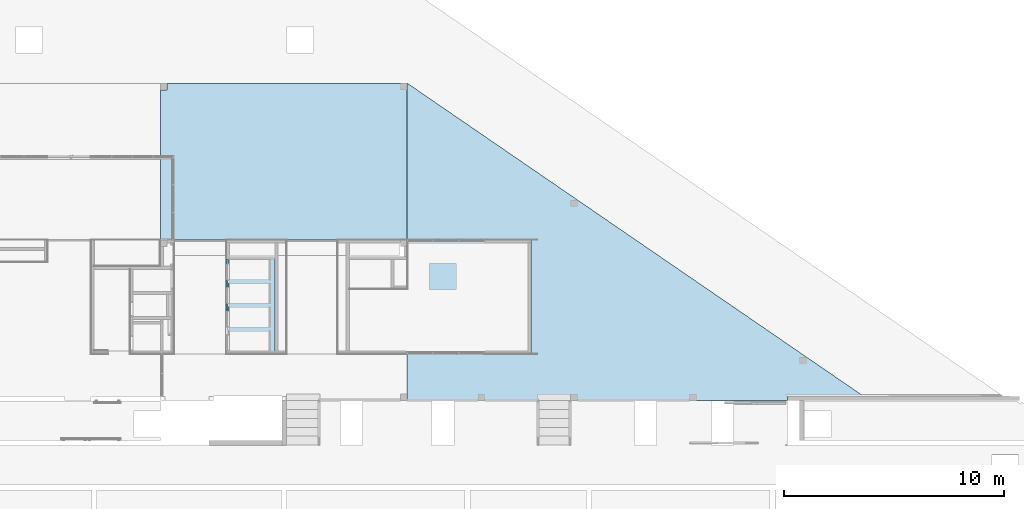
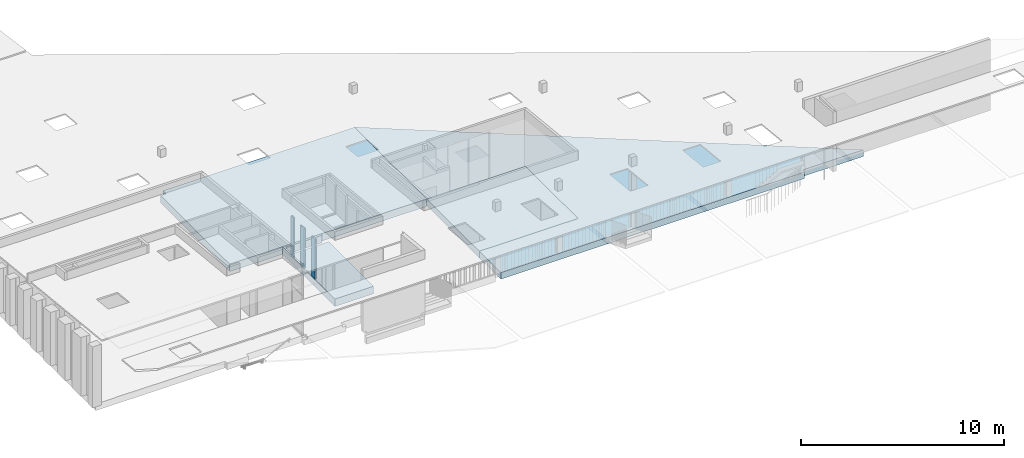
# One storey, part 24 of 43: 4 slabs, 3 plates, 1 element without a shape of its own.
"""IFC2X3 building model written with IfcOpenShell, lengths in millimetres."""

from ifc_helpers import new_model, entity, si_unit, converted_unit, derived_unit, money_unit, direction, frame, origin_with_axes, place, context, subcontext, project, spatial, faceted_brep, material, material_list, type_object, element, aggregate, save


model = new_model("IFC2X3")

# Units and contexts
model_context = context("Model", 3, precision=0.01, world=origin_with_axes(), true_north=direction((0.0, 1.0)))
body_context = subcontext(model_context, "Body", "Model", "MODEL_VIEW")
ifc_project = project(units=[si_unit("LENGTHUNIT", "METRE", prefix="MILLI"), si_unit("AREAUNIT", "SQUARE_METRE"), si_unit("VOLUMEUNIT", "CUBIC_METRE"), converted_unit("PLANEANGLEUNIT", "DEGREE", entity("IfcPlaneAngleMeasure", 0.0174532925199), si_unit("PLANEANGLEUNIT", "RADIAN"), dimensions=[0, 0, 0, 0, 0, 0, 0]), si_unit("SOLIDANGLEUNIT", "STERADIAN"), money_unit("EUR"), converted_unit("TIMEUNIT", "Year", entity("IfcTimeMeasure", 31556926.0), si_unit("TIMEUNIT", "SECOND"), dimensions=[0, 0, 1, 0, 0, 0, 0]), si_unit("MASSUNIT", "GRAM", prefix="KILO"), si_unit("THERMODYNAMICTEMPERATUREUNIT", "DEGREE_CELSIUS"), si_unit("LUMINOUSINTENSITYUNIT", "LUMEN"), si_unit("ENERGYUNIT", "JOULE", prefix="MEGA"), derived_unit("THERMALCONDUCTANCEUNIT", [(si_unit("POWERUNIT", "WATT"), 1), (si_unit("LENGTHUNIT", "METRE"), -1), (si_unit("THERMODYNAMICTEMPERATUREUNIT", "KELVIN"), -1)]), derived_unit("SPECIFICHEATCAPACITYUNIT", [(si_unit("ENERGYUNIT", "JOULE"), 1), (si_unit("MASSUNIT", "GRAM", prefix="KILO"), -1), (si_unit("THERMODYNAMICTEMPERATUREUNIT", "KELVIN"), -1)]), derived_unit("MASSDENSITYUNIT", [(si_unit("MASSUNIT", "GRAM", prefix="KILO"), 1), (si_unit("VOLUMEUNIT", "CUBIC_METRE"), -1)])], contexts=[model_context])

# Site, building, storey
site_placement = place(None, origin_with_axes())
site = spatial("IfcSite", under=ifc_project, at=site_placement, Name="L.Koidula tn 11b", CompositionType="ELEMENT")
building_placement = place(site_placement, origin_with_axes())
building = spatial("IfcBuilding", under=site, at=building_placement, Name="Rakvere Riigigümnaasium", CompositionType="ELEMENT")
storey_placement = place(building_placement, frame((0.0, 0.0, 6665.0), z_axis=(0.0, 0.0, 1.0), x_axis=(1.0, 0.0, 0.0)))
storey = spatial("IfcBuildingStorey", under=building, at=storey_placement, Name="3.korrus +6,66", CompositionType="ELEMENT", Elevation=6665.0)

# Curtain wall, plates
curtain_wall_type = type_object("IfcCurtainWallType", Name="Curtain Wall Type", PredefinedType="NOTDEFINED")
curtain_wall_placement = place(storey_placement, frame((49969.604162, 20812.4526887, -4.66409044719e-06), z_axis=(0.0, 0.0, 1.0), x_axis=(1.0, 0.0, 0.0)))
curtain_wall = element("IfcCurtainWall", 1, at=curtain_wall_placement, inside=storey, type_object=curtain_wall_type, Name="SUS-03")
ifc_material_1 = material(Name="Klaasvill")
ifc_material_2 = material(Name="MDF")
ifc_material_3 = material(Name="Kipsplaat")
ifc_material_list_1 = material_list([ifc_material_1, ifc_material_2, ifc_material_3])
plate_type = type_object("IfcPlateType", Name="SA-Siseuksesüsteem-Paneel 3 x 2400 x 0", PredefinedType="CURTAIN_PANEL")
plate_1_placement = place(curtain_wall_placement, frame((0.0, 1605.0, 1200.00000697), z_axis=(0.0, 0.0, 1.0), x_axis=(0.0, -1.0, 0.0)))
plate_1 = element("IfcPlate", 2, at=plate_1_placement, type_object=plate_type, material=ifc_material_list_1, Name="Panel-SA-Siseuks-010", ObjectType="CURTAIN_PANEL", context=body_context, shape_type="Brep", body=[
    faceted_brep([(-17.9967546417, 45.0, 1199.99999769), (-29.9967546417, 45.0, 1199.99999769), (-29.9967546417, 45.3958317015, 1199.99999769), (-32.9967546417, 45.3958317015, 1199.99999769), (-152.996754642, 45.3958317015, 1199.99999769), (-155.996754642, 45.3958317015, 1199.99999769), (-155.996754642, 45.0, 1199.99999769), (-167.996754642, 45.0, 1199.99999769), (-167.996754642, 79.0, 1199.99999769), (-168.047674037, 79.0, 1200.00000697), (-168.047674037, 42.0, 1200.00000697), (168.047671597, 42.0, 1200.00000697), (168.047671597, 79.0, 1200.00000697), (-17.9967546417, 79.0, 1199.99999769), (-17.9967546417, 45.3958317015, 1199.99999769), (-17.9967546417, 45.0, -1200.00000231), (-29.9967546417, 45.0, -1200.00000231), (-29.9967546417, 45.3958317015, -1200.00000231), (-32.9967546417, 45.3958317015, -1200.00000231), (-152.996754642, 45.3958317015, -1200.00000231), (-155.996754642, 45.3958317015, -1200.00000231), (-155.996754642, 45.0, -1200.00000231), (-167.996754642, 45.0, -1200.00000231), (-167.996754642, 79.0, -1200.00000231), (-168.047674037, 79.0, -1200.00000697), (-168.047674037, 42.0, -1200.00000697), (168.047671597, 42.0, -1200.00000697), (168.047671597, 79.0, -1200.00000697), (-17.9967546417, 79.0, -1200.00000231), (-17.9967546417, 45.3958317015, -1200.00000231)], [[[0, 1, 2, 3, 4, 5, 6, 7, 8, 9, 10, 11, 12, 13, 14]], [[1, 0, 15, 16]], [[17, 2, 1, 16]], [[2, 17, 18, 3]], [[18, 19, 4, 3]], [[19, 20, 5, 4]], [[21, 6, 5, 20]], [[22, 7, 6, 21]], [[8, 7, 22, 23]], [[24, 9, 8, 23]], [[10, 9, 24, 25]], [[25, 26, 11, 10]], [[26, 27, 12, 11]], [[12, 27, 28, 13]], [[0, 14, 13, 28, 29, 15]], [[15, 29, 28, 27, 26, 25, 24, 23, 22, 21, 20, 19, 18, 17, 16]]]),
    faceted_brep([(168.047671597, 92.0, -1200.00000697), (-17.9967546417, 92.0, -1200.00000231), (-17.9967546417, 92.0, 1199.99999769), (168.047671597, 92.0, 1200.00000697), (168.047671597, 84.0, -1200.00000697), (-17.9967546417, 84.0, -1200.00000231), (-17.9967546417, 84.0, 1199.99999769), (168.047671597, 84.0, 1200.00000697)], [[[0, 1, 2, 3]], [[4, 5, 1, 0]], [[5, 6, 2, 1]], [[3, 2, 6, 7]], [[0, 3, 7, 4]], [[7, 6, 5, 4]]]),
    faceted_brep([(-168.047674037, 84.0, 1200.00000697), (-167.996754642, 84.0, 1199.99999769), (-167.996754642, 92.0, 1199.99999769), (-168.047674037, 92.0, 1200.00000697), (-168.047674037, 84.0, -1200.00000697), (-167.996754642, 84.0, -1200.00000231), (-167.996754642, 92.0, -1200.00000231), (-168.047674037, 92.0, -1200.00000697)], [[[0, 1, 2, 3]], [[4, 5, 1, 0]], [[5, 6, 2, 1]], [[3, 2, 6, 7]], [[3, 7, 4, 0]], [[7, 6, 5, 4]]]),
    faceted_brep([(-168.047674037, 0.0, 1200.00000697), (168.047671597, 0.0, 1200.00000697), (168.047671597, 10.0, 1200.00000697), (-168.047674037, 10.0, 1200.00000697), (-168.047674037, 0.0, -1200.00000697), (168.047671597, 0.0, -1200.00000697), (168.047671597, 10.0, -1200.00000697), (-168.047674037, 10.0, -1200.00000697)], [[[0, 1, 2, 3]], [[0, 4, 5, 1]], [[1, 5, 6, 2]], [[3, 2, 6, 7]], [[4, 0, 3, 7]], [[5, 4, 7, 6]]]),
    faceted_brep([(-168.047674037, 12.0, 1200.00000697), (168.047671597, 12.0, 1200.00000697), (168.047671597, 25.0, 1200.00000697), (-168.047674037, 25.0, 1200.00000697), (-168.047674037, 12.0, -1200.00000697), (168.047671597, 12.0, -1200.00000697), (168.047671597, 25.0, -1200.00000697), (-168.047674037, 25.0, -1200.00000697)], [[[0, 1, 2, 3]], [[0, 4, 5, 1]], [[1, 5, 6, 2]], [[3, 2, 6, 7]], [[4, 0, 3, 7]], [[5, 4, 7, 6]]]),
    faceted_brep([(-168.047674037, 25.0, 1200.00000697), (168.047671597, 25.0, 1200.00000697), (168.047671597, 38.0, 1200.00000697), (-168.047674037, 38.0, 1200.00000697), (-168.047674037, 25.0, -1200.00000697), (168.047671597, 25.0, -1200.00000697), (168.047671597, 38.0, -1200.00000697), (-168.047674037, 38.0, -1200.00000697)], [[[0, 1, 2, 3]], [[0, 4, 5, 1]], [[1, 5, 6, 2]], [[3, 2, 6, 7]], [[4, 0, 3, 7]], [[5, 4, 7, 6]]]),
])
plate_2_placement = place(curtain_wall_placement, frame((0.0, 535.0, 1200.00000697), z_axis=(0.0, 0.0, 1.0), x_axis=(0.0, -1.0, 0.0)))
plate_2 = element("IfcPlate", 3, at=plate_2_placement, type_object=plate_type, material=ifc_material_list_1, Name="Panel-SA-Siseuks-011", ObjectType="CURTAIN_PANEL", context=body_context, shape_type="Brep", body=[
    faceted_brep([(-17.9935092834, 45.0, 1199.99999769), (-29.9935092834, 45.0, 1199.99999769), (-29.9935092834, 45.3958317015, 1199.99999769), (-32.9935092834, 45.3958317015, 1199.99999769), (-152.993509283, 45.3958317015, 1199.99999769), (-155.993509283, 45.3958317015, 1199.99999769), (-155.993509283, 45.0, 1200.00000697), (-167.993509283, 45.0, 1200.00000697), (-167.993509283, 79.0, 1200.00000697), (-168.047674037, 79.0, 1200.00000697), (-168.047674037, 42.0, 1200.00000697), (168.047671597, 42.0, 1200.00000697), (168.047671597, 79.0, 1200.00000697), (-17.9935092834, 79.0, 1199.99999769), (-17.9935092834, 45.3958317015, 1199.99999769), (-17.9935092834, 45.0, -1200.00000231), (-29.9935092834, 45.0, -1200.00000231), (-29.9935092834, 45.3958317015, -1200.00000231), (-32.9935092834, 45.3958317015, -1200.00000231), (-152.993509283, 45.3958317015, -1200.00000231), (-155.993509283, 45.3958317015, -1200.00000231), (-155.993509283, 45.0, -1200.00000231), (-167.993509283, 45.0, -1200.00000231), (-167.993509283, 79.0, -1200.00000231), (-168.047674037, 79.0, -1200.00000697), (-168.047674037, 42.0, -1200.00000697), (168.047671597, 42.0, -1200.00000697), (168.047671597, 79.0, -1200.00000697), (-17.9935092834, 79.0, -1200.00000231), (-17.9935092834, 45.3958317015, -1200.00000231)], [[[0, 1, 2, 3, 4, 5, 6, 7, 8, 9, 10, 11, 12, 13, 14]], [[1, 0, 15, 16]], [[17, 2, 1, 16]], [[2, 17, 18, 3]], [[19, 4, 3, 18]], [[19, 20, 5, 4]], [[6, 5, 20, 21]], [[21, 22, 7, 6]], [[7, 22, 23, 8]], [[24, 9, 8, 23]], [[10, 9, 24, 25]], [[25, 26, 11, 10]], [[26, 27, 12, 11]], [[27, 28, 13, 12]], [[0, 14, 13, 28, 29, 15]], [[15, 29, 28, 27, 26, 25, 24, 23, 22, 21, 20, 19, 18, 17, 16]]]),
    faceted_brep([(168.047671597, 92.0, -1200.00000697), (-17.9935092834, 92.0, -1200.00000231), (-17.9935092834, 92.0, 1199.99999769), (168.047671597, 92.0, 1200.00000697), (168.047671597, 84.0, -1200.00000697), (-17.9935092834, 84.0, -1200.00000231), (-17.9935092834, 84.0, 1199.99999769), (168.047671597, 84.0, 1200.00000697)], [[[0, 1, 2, 3]], [[4, 5, 1, 0]], [[5, 6, 2, 1]], [[3, 2, 6, 7]], [[4, 0, 3, 7]], [[7, 6, 5, 4]]]),
    faceted_brep([(-168.047674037, 84.0, 1200.00000697), (-167.993509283, 84.0, 1200.00000697), (-167.993509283, 92.0, 1200.00000697), (-168.047674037, 92.0, 1200.00000697), (-168.047674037, 84.0, -1200.00000697), (-167.993509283, 84.0, -1200.00000231), (-167.993509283, 92.0, -1200.00000231), (-168.047674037, 92.0, -1200.00000697)], [[[0, 1, 2, 3]], [[4, 5, 1, 0]], [[5, 6, 2, 1]], [[3, 2, 6, 7]], [[3, 7, 4, 0]], [[7, 6, 5, 4]]]),
    faceted_brep([(-168.047674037, 0.0, 1200.00000697), (168.047671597, 0.0, 1200.00000697), (168.047671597, 10.0, 1200.00000697), (-168.047674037, 10.0, 1200.00000697), (-168.047674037, 0.0, -1200.00000697), (168.047671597, 0.0, -1200.00000697), (168.047671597, 10.0, -1200.00000697), (-168.047674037, 10.0, -1200.00000697)], [[[0, 1, 2, 3]], [[0, 4, 5, 1]], [[1, 5, 6, 2]], [[3, 2, 6, 7]], [[4, 0, 3, 7]], [[5, 4, 7, 6]]]),
    faceted_brep([(-168.047674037, 12.0, 1200.00000697), (168.047671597, 12.0, 1200.00000697), (168.047671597, 25.0, 1200.00000697), (-168.047674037, 25.0, 1200.00000697), (-168.047674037, 12.0, -1200.00000697), (168.047671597, 12.0, -1200.00000697), (168.047671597, 25.0, -1200.00000697), (-168.047674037, 25.0, -1200.00000697)], [[[0, 1, 2, 3]], [[0, 4, 5, 1]], [[1, 5, 6, 2]], [[3, 2, 6, 7]], [[4, 0, 3, 7]], [[5, 4, 7, 6]]]),
    faceted_brep([(-168.047674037, 25.0, 1200.00000697), (168.047671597, 25.0, 1200.00000697), (168.047671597, 38.0, 1200.00000697), (-168.047674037, 38.0, 1200.00000697), (-168.047674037, 25.0, -1200.00000697), (168.047671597, 25.0, -1200.00000697), (168.047671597, 38.0, -1200.00000697), (-168.047674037, 38.0, -1200.00000697)], [[[0, 1, 2, 3]], [[0, 4, 5, 1]], [[1, 5, 6, 2]], [[3, 2, 6, 7]], [[4, 0, 3, 7]], [[5, 4, 7, 6]]]),
])
ifc_material_list_2 = material_list([ifc_material_2, ifc_material_3, ifc_material_1])
plate_3_placement = place(curtain_wall_placement, frame((0.0, 2579.0, 1200.00000697), z_axis=(0.0, 0.0, 1.0), x_axis=(0.0, -1.0, 0.0)))
plate_3 = element("IfcPlate", 4, at=plate_3_placement, type_object=plate_type, material=ifc_material_list_2, Name="Panel-SA-Siseuks-009", ObjectType="CURTAIN_PANEL", context=body_context, shape_type="Brep", body=[
    faceted_brep([(-114.000001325, 0.0, 1200.00000697), (72.0476715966, 0.0, 1200.00000697), (72.0476715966, 10.0, 1200.00000697), (-114.000001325, 10.0, 1200.00000697), (-114.000001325, 0.0, -1200.00000697), (72.0476715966, 0.0, -1200.00000697), (72.0476715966, 10.0, -1200.00000697), (-114.000001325, 10.0, -1200.00000697)], [[[0, 1, 2, 3]], [[0, 4, 5, 1]], [[1, 5, 6, 2]], [[3, 2, 6, 7]], [[4, 0, 3, 7]], [[5, 4, 7, 6]]]),
    faceted_brep([(-114.000001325, 12.0, 1200.00000697), (72.0476715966, 12.0, 1200.00000697), (72.0476715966, 25.0, 1200.00000697), (-114.000001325, 25.0, 1200.00000697), (-114.000001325, 12.0, -1200.00000697), (72.0476715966, 12.0, -1200.00000697), (72.0476715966, 25.0, -1200.00000697), (-114.000001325, 25.0, -1200.00000697)], [[[0, 1, 2, 3]], [[0, 4, 5, 1]], [[1, 5, 6, 2]], [[3, 2, 6, 7]], [[4, 0, 3, 7]], [[5, 4, 7, 6]]]),
    faceted_brep([(-114.000001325, 25.0, 1200.00000697), (72.0476715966, 25.0, 1200.00000697), (72.0476715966, 38.0, 1200.00000697), (-114.000001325, 38.0, 1200.00000697), (-114.000001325, 25.0, -1200.00000697), (72.0476715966, 25.0, -1200.00000697), (72.0476715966, 38.0, -1200.00000697), (-114.000001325, 38.0, -1200.00000697)], [[[0, 1, 2, 3]], [[0, 4, 5, 1]], [[1, 5, 6, 2]], [[3, 2, 6, 7]], [[4, 0, 3, 7]], [[5, 4, 7, 6]]]),
    faceted_brep([(-114.000001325, 42.0, 1200.00000697), (72.0476715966, 42.0, 1200.00000697), (72.0476715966, 79.0, 1200.00000697), (-114.000001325, 79.0, 1200.00000697), (-114.000001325, 42.0, -1200.00000697), (72.0476715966, 42.0, -1200.00000697), (72.0476715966, 79.0, -1200.00000697), (-114.000001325, 79.0, -1200.00000697)], [[[0, 1, 2, 3]], [[0, 4, 5, 1]], [[1, 5, 6, 2]], [[3, 2, 6, 7]], [[4, 0, 3, 7]], [[5, 4, 7, 6]]]),
    faceted_brep([(-114.000001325, 84.0, 1200.00000697), (72.0476715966, 84.0, 1200.00000697), (72.0476715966, 92.0, 1200.00000697), (-114.000001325, 92.0, 1200.00000697), (-114.000001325, 84.0, -1200.00000697), (72.0476715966, 84.0, -1200.00000697), (72.0476715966, 92.0, -1200.00000697), (-114.000001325, 92.0, -1200.00000697)], [[[0, 1, 2, 3]], [[0, 4, 5, 1]], [[1, 5, 6, 2]], [[3, 2, 6, 7]], [[4, 0, 3, 7]], [[5, 4, 7, 6]]]),
])
aggregate(curtain_wall, [plate_1, plate_2, plate_3])

# Slabs
ifc_material_4 = material(Name="vaip")
ifc_material_5 = material(Name="Betoon - pealevalu")
ifc_material_6 = material(Name="Betoon")
ifc_material_7 = material(Name="Mürasummutus vill")
ifc_material_8 = material(Name="Betoon õõnespaneel")
ifc_material_list_3 = material_list([ifc_material_4, ifc_material_5, ifc_material_6, ifc_material_7, ifc_material_8])
slab_type_1 = type_object("IfcSlabType", Name="VL-02-2 450", PredefinedType="NOTDEFINED")
slab_1_placement = place(storey_placement, frame((58180.0348101, 24400.4555472, 0.0), z_axis=(0.0, 0.0, 1.0), x_axis=(1.0, 0.0, 0.0)))
element("IfcSlab", 5, at=slab_1_placement, inside=storey, type_object=slab_type_1, material=ifc_material_list_3, Name="Vahelagi", PredefinedType="NOTDEFINED", context=body_context, shape_type="Brep", body=[
    faceted_brep([(-10880.0347471, 7099.99994729, -5.0), (-10880.0347471, 7099.99994729, 0.0), (-380.034823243, 7099.95938661, 0.0), (-380.034823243, 7099.95938661, -5.0), (-10880.0347471, 6799.99994729, 0.0), (-10880.0347471, 6799.99994729, -5.0), (-11180.0347471, 6799.99994729, 0.0), (-11180.0348163, 0.0, 0.0), (0.0, 0.0, 0.0), (0.0, 7099.99997204, 0.0), (0.0, 7099.99997204, -5.0), (0.0, 0.0, -5.0), (-11180.0348163, 0.0, -5.0), (-11180.0347471, 6799.99994729, -5.0)], [[[0, 1, 2, 3]], [[4, 1, 0, 5]], [[4, 6, 7, 8, 9, 2, 1]], [[9, 3, 2]], [[5, 0, 3, 10, 11, 12, 13]], [[6, 4, 5, 13]], [[6, 13, 12, 7]], [[8, 7, 12, 11]], [[9, 8, 11, 10]], [[3, 9, 10]]]),
    faceted_brep([(-10880.0347471, 7099.99994729, -10.0), (-10880.0347471, 7099.99994729, -5.0), (-380.034823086, 7099.99997085, -5.0), (-380.034823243, 7099.95938661, -10.0), (-10880.0347471, 6799.99994729, -5.0), (-10880.0347471, 6799.99994729, -10.0), (-11180.0347471, 6799.99994729, -5.0), (-11180.0348163, 0.0, -5.0), (0.0, 0.0, -5.0), (0.0, 7099.99997204, -5.0), (0.0, 7099.99997204, -10.0), (0.0, 0.0, -10.0), (-11180.0348163, 0.0, -10.0), (-11180.0347471, 6799.99994729, -10.0)], [[[0, 1, 2, 3]], [[4, 1, 0, 5]], [[4, 6, 7, 8, 9, 2, 1]], [[2, 9, 10, 3]], [[5, 0, 3, 10, 11, 12, 13]], [[6, 4, 5, 13]], [[6, 13, 12, 7]], [[8, 7, 12, 11]], [[9, 8, 11, 10]]]),
    faceted_brep([(-10880.0347471, 7099.99994729, -100.0), (-10880.0347471, 7099.99994729, -10.0), (-380.034823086, 7099.99997085, -10.0), (-380.034823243, 7099.95938661, -100.0), (-10880.0347471, 6799.99994729, -10.0), (-10880.0347471, 6799.99994729, -100.0), (-11180.0347471, 6799.99994729, -10.0), (-11180.0348163, 0.0, -10.0), (0.0, 0.0, -10.0), (0.0, 7099.99997204, -10.0), (7.17945596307e-05, 7099.99994729, -46.0929271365), (-299.999928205, 7099.99994729, -46.0929271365), (-299.999928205, 7099.99994729, -100.0), (-299.999928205, 6799.99994729, -100.0), (7.17945596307e-05, 6799.99994729, -100.0), (0.0, 0.0, -100.0), (-11180.0348163, 0.0, -100.0), (-11180.0347471, 6799.99994729, -100.0), (7.17945596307e-05, 6799.99994729, -46.0929271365), (-299.999928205, 6799.99994729, -46.0929271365)], [[[0, 1, 2, 3]], [[4, 1, 0, 5]], [[4, 6, 7, 8, 9, 2, 1]], [[10, 11, 12, 3, 2, 9]], [[5, 0, 3, 12, 13, 14, 15, 16, 17]], [[6, 4, 5, 17]], [[6, 17, 16, 7]], [[15, 8, 7, 16]], [[15, 14, 18, 10, 9, 8]], [[19, 11, 10, 18]], [[13, 12, 11, 19]], [[19, 18, 14, 13]]]),
    faceted_brep([(-10880.0347471, 7099.99994729, -130.0), (-10880.0347471, 7099.99994729, -100.0), (-380.034823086, 7099.99997085, -100.0), (-380.034823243, 7099.95938661, -130.0), (-10880.0347471, 6799.99994729, -100.0), (-10880.0347471, 6799.99994729, -130.0), (-11180.0347471, 6799.99994729, -100.0), (-11180.0348163, 0.0, -100.0), (0.0, 0.0, -100.0), (7.17945596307e-05, 6799.99994729, -100.0), (-299.999928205, 6799.99994729, -100.0), (-299.999928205, 7099.99994729, -100.0), (-299.999928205, 7099.99994729, -130.0), (-299.999928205, 6799.99994729, -130.0), (7.17945596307e-05, 6799.99994729, -130.0), (0.0, 0.0, -130.0), (-11180.0348163, 0.0, -130.0), (-11180.0347471, 6799.99994729, -130.0)], [[[0, 1, 2, 3]], [[4, 1, 0, 5]], [[4, 6, 7, 8, 9, 10, 11, 2, 1]], [[2, 11, 12, 3]], [[5, 0, 3, 12, 13, 14, 15, 16, 17]], [[6, 4, 5, 17]], [[6, 17, 16, 7]], [[15, 8, 7, 16]], [[15, 14, 9, 8]], [[13, 10, 9, 14]], [[13, 12, 11, 10]]]),
    faceted_brep([(-10880.0347471, 7099.99994729, -450.0), (-10880.0347471, 7099.99994729, -130.0), (-380.034823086, 7099.99997085, -130.0), (-380.034823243, 7099.95938661, -450.0), (-10880.0347471, 6799.99994729, -130.0), (-10880.0347471, 6799.99994729, -450.0), (-11180.0347471, 6799.99994729, -130.0), (-11180.0348163, 0.0, -130.0), (0.0, 0.0, -130.0), (7.17945596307e-05, 6799.99994729, -130.0), (-299.999928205, 6799.99994729, -130.0), (-299.999928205, 7099.99994729, -130.0), (-299.999928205, 7099.99994729, -450.0), (-299.999928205, 6799.99994729, -450.0), (7.17945596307e-05, 6799.99994729, -450.0), (0.0, 0.0, -450.0), (-11180.0348163, 0.0, -450.0), (-11180.0347471, 6799.99994729, -450.0)], [[[0, 1, 2, 3]], [[4, 1, 0, 5]], [[4, 6, 7, 8, 9, 10, 11, 2, 1]], [[2, 11, 12, 3]], [[5, 0, 3, 12, 13, 14, 15, 16, 17]], [[6, 4, 5, 17]], [[6, 17, 16, 7]], [[7, 16, 15, 8]], [[15, 14, 9, 8]], [[13, 10, 9, 14]], [[13, 12, 11, 10]]]),
])
ifc_material_list_4 = material_list([ifc_material_4, ifc_material_6, ifc_material_7, ifc_material_8])
slab_type_2 = type_object("IfcSlabType", Name="VL-01-3 395", PredefinedType="NOTDEFINED")
slab_2_placement = place(storey_placement, frame((58180.0348101, 17110.4555095, 0.0), z_axis=(0.0, 0.0, 1.0), x_axis=(1.0, 0.0, 0.0)))
element("IfcSlab", 6, at=slab_2_placement, inside=storey, type_object=slab_type_2, material=ifc_material_list_4, Name="Vahelagi", PredefinedType="NOTDEFINED", context=body_context, shape_type="Brep", body=[
    faceted_brep([(3509.98612091, 11999.5703364, -5.0), (3509.98612091, 11999.5703364, 0.0), (20698.9817562, 210.025167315, 0.0), (20698.9817562, 210.025167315, -5.0), (3509.98612091, 11699.5953824, 0.0), (3509.98612091, 11699.5953824, -5.0), (3209.98612091, 11999.5953824, 0.0), (3509.94960416, 11999.5953824, 0.0), (24.7722909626, 14390.0000476, 0.0), (0.0, 14390.0000476, 0.0), (0.0, 7289.99990128, 0.0), (5609.96326927, 7289.99990128, 0.0), (5609.96326927, 2129.98428264, 0.0), (0.0, 2129.98428264, 0.0), (0.0, 0.0, 0.0), (17249.9472365, 0.0, 0.0), (17249.9472365, 199.999969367, 0.0), (20698.9817562, 199.999969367, 0.0), (3209.98612091, 11699.5953824, 0.0), (20698.9817562, 199.999969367, -5.0), (17249.9472365, 199.999969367, -5.0), (17249.9472365, 0.0, -5.0), (0.0, 0.0, -5.0), (0.0, 2129.98428264, -5.0), (5609.96326927, 2129.98428264, -5.0), (5609.96326927, 7289.99990128, -5.0), (0.0, 7289.99990128, -5.0), (0.0, 14390.0000476, -5.0), (24.7722909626, 14390.0000476, -5.0), (3509.94960416, 11999.5953824, -5.0), (3209.98612091, 11999.5953824, -5.0), (3209.98612091, 11699.5953824, -5.0)], [[[0, 1, 2, 3]], [[4, 1, 0, 5]], [[6, 7, 8, 9, 10, 11, 12, 13, 14, 15, 16, 17, 2, 1, 4, 18]], [[17, 19, 3, 2]], [[5, 0, 3, 19, 20, 21, 22, 23, 24, 25, 26, 27, 28, 29, 30, 31]], [[18, 4, 5, 31]], [[29, 7, 6, 30]], [[7, 29, 28, 8]], [[8, 28, 27, 9]], [[9, 27, 26, 10]], [[10, 26, 25, 11]], [[11, 25, 24, 12]], [[12, 24, 23, 13]], [[13, 23, 22, 14]], [[14, 22, 21, 15]], [[15, 21, 20, 16]], [[16, 20, 19, 17]], [[6, 18, 31, 30]]]),
    faceted_brep([(3509.98612091, 11999.5703364, -100.0), (3509.98612091, 11999.5703364, -5.0), (20698.9817562, 210.025167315, -5.0), (20698.9817562, 210.025167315, -100.0), (3509.98612091, 11699.5953824, -5.0), (3509.98612091, 11699.5953824, -100.0), (3209.98612091, 11999.5953824, -5.0), (3509.94960416, 11999.5953824, -5.0), (24.7722909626, 14390.0000476, -5.0), (0.0, 14390.0000476, -5.0), (0.0, 7289.99990128, -5.0), (5609.96326927, 7289.99990128, -5.0), (5609.96326927, 2129.98428264, -5.0), (0.0, 2129.98428264, -5.0), (0.0, 0.0, -5.0), (17249.9472365, 0.0, -5.0), (17249.9472365, 199.999969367, -5.0), (20698.9817562, 199.999969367, -5.0), (3209.98612091, 11699.5953824, -5.0), (20698.9817562, 199.999969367, -100.0), (17249.9472365, 199.999969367, -100.0), (17249.9472365, 0.0, -100.0), (0.0, 0.0, -100.0), (0.0, 2129.98428264, -100.0), (5609.96326927, 2129.98428264, -100.0), (5609.96326927, 7289.99990128, -100.0), (0.0, 7289.99990128, -100.0), (0.0, 14390.0000476, -100.0), (24.7722909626, 14390.0000476, -100.0), (3509.94960416, 11999.5953824, -100.0), (3209.98612091, 11999.5953824, -100.0), (3209.98612091, 11699.5953824, -100.0), (13119.9632628, 5408.29782723, -100.0), (12819.9632628, 5408.29782723, -100.0), (12819.9632628, 5108.29782723, -100.0), (13119.9632628, 5108.29782723, -100.0), (13119.9632628, 5408.29782723, -60.0), (12819.9632628, 5408.29782723, -60.0), (12819.9632628, 5108.29782723, -60.0), (13119.9632628, 5108.29782723, -60.0)], [[[0, 1, 2, 3]], [[4, 1, 0, 5]], [[6, 7, 8, 9, 10, 11, 12, 13, 14, 15, 16, 17, 2, 1, 4, 18]], [[17, 19, 3, 2]], [[5, 0, 3, 19, 20, 21, 22, 23, 24, 25, 26, 27, 28, 29, 30, 31], [32, 33, 34, 35]], [[18, 4, 5, 31]], [[29, 7, 6, 30]], [[7, 29, 28, 8]], [[8, 28, 27, 9]], [[9, 27, 26, 10]], [[10, 26, 25, 11]], [[11, 25, 24, 12]], [[12, 24, 23, 13]], [[13, 23, 22, 14]], [[14, 22, 21, 15]], [[15, 21, 20, 16]], [[16, 20, 19, 17]], [[6, 18, 31, 30]], [[33, 32, 36, 37]], [[34, 33, 37, 38]], [[35, 34, 38, 39]], [[32, 35, 39, 36]], [[38, 37, 36, 39]]]),
    faceted_brep([(3509.98612091, 11999.5703364, -130.0), (3509.98612091, 11999.5703364, -100.0), (20698.9817562, 210.025167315, -100.0), (20698.9817562, 210.025167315, -130.0), (3509.98612091, 11699.5953824, -100.0), (3509.98612091, 11699.5953824, -130.0), (3209.98612091, 11999.5953824, -100.0), (3509.94960416, 11999.5953824, -100.0), (24.7722909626, 14390.0000476, -100.0), (0.0, 14390.0000476, -100.0), (0.0, 7289.99990128, -100.0), (5609.96326927, 7289.99990128, -100.0), (5609.96326927, 2129.98428264, -100.0), (0.0, 2129.98428264, -100.0), (0.0, 0.0, -100.0), (17249.9472365, 0.0, -100.0), (17249.9472365, 199.999969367, -100.0), (20698.9817562, 199.999969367, -100.0), (3209.98612091, 11699.5953824, -100.0), (13119.9632628, 5408.29782723, -100.0), (13119.9632628, 5108.29782723, -100.0), (12819.9632628, 5108.29782723, -100.0), (12819.9632628, 5408.29782723, -100.0), (20698.9817562, 199.999969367, -130.0), (17249.9472365, 199.999969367, -130.0), (17249.9472365, 0.0, -130.0), (0.0, 0.0, -130.0), (0.0, 2129.98428264, -130.0), (5609.96326927, 2129.98428264, -130.0), (5609.96326927, 7289.99990128, -130.0), (0.0, 7289.99990128, -130.0), (0.0, 14390.0000476, -130.0), (24.7722909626, 14390.0000476, -130.0), (3509.94960416, 11999.5953824, -130.0), (3209.98612091, 11999.5953824, -130.0), (3209.98612091, 11699.5953824, -130.0), (13119.9632628, 5408.29782723, -130.0), (12819.9632628, 5408.29782723, -130.0), (12819.9632628, 5108.29782723, -130.0), (13119.9632628, 5108.29782723, -130.0)], [[[0, 1, 2, 3]], [[4, 1, 0, 5]], [[6, 7, 8, 9, 10, 11, 12, 13, 14, 15, 16, 17, 2, 1, 4, 18], [19, 20, 21, 22]], [[17, 23, 3, 2]], [[5, 0, 3, 23, 24, 25, 26, 27, 28, 29, 30, 31, 32, 33, 34, 35], [36, 37, 38, 39]], [[18, 4, 5, 35]], [[33, 7, 6, 34]], [[7, 33, 32, 8]], [[8, 32, 31, 9]], [[9, 31, 30, 10]], [[10, 30, 29, 11]], [[11, 29, 28, 12]], [[12, 28, 27, 13]], [[13, 27, 26, 14]], [[14, 26, 25, 15]], [[15, 25, 24, 16]], [[16, 24, 23, 17]], [[6, 18, 35, 34]], [[20, 19, 36, 39]], [[21, 20, 39, 38]], [[22, 21, 38, 37]], [[19, 22, 37, 36]]]),
    faceted_brep([(3509.98612091, 11999.5703364, -395.0), (3509.98612091, 11999.5703364, -130.0), (20698.9817562, 210.025167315, -130.0), (20698.9817562, 210.025167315, -395.0), (3509.98612091, 11699.5953824, -130.0), (3509.98612091, 11699.5953824, -395.0), (3209.98612091, 11999.5953824, -130.0), (3509.94960416, 11999.5953824, -130.0), (24.7722909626, 14390.0000476, -130.0), (0.0, 14390.0000476, -130.0), (0.0, 7289.99990128, -130.0), (5609.96326927, 7289.99990128, -130.0), (5609.96326927, 2129.98428264, -130.0), (0.0, 2129.98428264, -130.0), (0.0, 0.0, -130.0), (17249.9472365, 0.0, -130.0), (17249.9472365, 199.999969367, -130.0), (20698.9817562, 199.999969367, -130.0), (3209.98612091, 11699.5953824, -130.0), (13119.9632628, 5408.29782723, -130.0), (13119.9632628, 5108.29782723, -130.0), (12819.9632628, 5108.29782723, -130.0), (12819.9632628, 5408.29782723, -130.0), (20698.9817562, 199.999969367, -395.0), (17249.9472365, 199.999969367, -395.0), (17249.9472365, 0.0, -395.0), (0.0, 0.0, -395.0), (0.0, 2129.98428264, -395.0), (5609.96326927, 2129.98428264, -395.0), (5609.96326927, 7289.99990128, -395.0), (0.0, 7289.99990128, -395.0), (0.0, 14390.0000476, -395.0), (24.7722909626, 14390.0000476, -395.0), (3509.94960416, 11999.5953824, -395.0), (3209.98612091, 11999.5953824, -395.0), (3209.98612091, 11699.5953824, -395.0), (13119.9632628, 5408.29782723, -395.0), (12819.9632628, 5408.29782723, -395.0), (12819.9632628, 5108.29782723, -395.0), (13119.9632628, 5108.29782723, -395.0)], [[[0, 1, 2, 3]], [[4, 1, 0, 5]], [[6, 7, 8, 9, 10, 11, 12, 13, 14, 15, 16, 17, 2, 1, 4, 18], [19, 20, 21, 22]], [[17, 23, 3, 2]], [[5, 0, 3, 23, 24, 25, 26, 27, 28, 29, 30, 31, 32, 33, 34, 35], [36, 37, 38, 39]], [[18, 4, 5, 35]], [[33, 7, 6, 34]], [[7, 33, 32, 8]], [[8, 32, 31, 9]], [[9, 31, 30, 10]], [[10, 30, 29, 11]], [[11, 29, 28, 12]], [[12, 28, 27, 13]], [[13, 27, 26, 14]], [[14, 26, 25, 15]], [[15, 25, 24, 16]], [[16, 24, 23, 17]], [[6, 18, 35, 34]], [[20, 19, 36, 39]], [[21, 20, 39, 38]], [[22, 21, 38, 37]], [[19, 22, 37, 36]]]),
])
ifc_material_9 = material(Name="Parkett")
ifc_material_list_5 = material_list([ifc_material_9, ifc_material_6, ifc_material_7, ifc_material_8])
slab_type_3 = type_object("IfcSlabType", Name="VL-01 395", PredefinedType="NOTDEFINED")
slab_3_placement = place(storey_placement, frame((58180.0347249, 19230.4397072, 0.0), z_axis=(0.0, 0.0, 1.0), x_axis=(1.0, 0.0, 0.0)))
element("IfcSlab", 7, at=slab_3_placement, inside=storey, type_object=slab_type_3, material=ifc_material_list_5, Name="Vahelagi", PredefinedType="NOTDEFINED", context=body_context, shape_type="Brep", body=[
    faceted_brep([(0.0, 0.0, -10.0), (5609.96327769, 0.0, -10.0), (5609.96327769, 0.0, 0.0), (0.0, 0.0, 0.0), (0.0, 5170.01583998, -10.0), (5609.96327769, 5170.01583998, -10.0), (5609.96327769, 5170.01583998, 0.0), (0.0, 5170.01583998, 0.0)], [[[0, 1, 2, 3]], [[1, 0, 4, 5]], [[1, 5, 6, 2]], [[7, 3, 2, 6]], [[4, 0, 3, 7]], [[5, 4, 7, 6]]]),
    faceted_brep([(0.0, 0.0, -100.0), (5609.96327769, 0.0, -100.0), (5609.96327769, 0.0, -10.0), (0.0, 0.0, -10.0), (0.0, 5170.01583998, -100.0), (5609.96327769, 5170.01583998, -100.0), (5609.96327769, 5170.01583998, -10.0), (0.0, 5170.01583998, -10.0)], [[[0, 1, 2, 3]], [[1, 0, 4, 5]], [[1, 5, 6, 2]], [[7, 3, 2, 6]], [[4, 0, 3, 7]], [[5, 4, 7, 6]]]),
    faceted_brep([(0.0, 0.0, -130.0), (5609.96327769, 0.0, -130.0), (5609.96327769, 0.0, -100.0), (0.0, 0.0, -100.0), (0.0, 5170.01583998, -130.0), (5609.96327769, 5170.01583998, -130.0), (5609.96327769, 5170.01583998, -100.0), (0.0, 5170.01583998, -100.0)], [[[0, 1, 2, 3]], [[1, 0, 4, 5]], [[1, 5, 6, 2]], [[7, 3, 2, 6]], [[4, 0, 3, 7]], [[5, 4, 7, 6]]]),
    faceted_brep([(0.0, 0.0, -130.0), (0.0, 0.0, -395.0), (5609.96327769, 0.0, -395.0), (5609.96327769, 0.0, -130.0), (0.0, 5170.01583998, -130.0), (0.0, 5170.01583998, -395.0), (5609.96327769, 5170.01583998, -395.0), (5609.96327769, 5170.01583998, -130.0)], [[[0, 1, 2, 3]], [[4, 5, 1, 0]], [[2, 1, 5, 6]], [[3, 2, 6, 7]], [[4, 0, 3, 7]], [[7, 6, 5, 4]]]),
])
ifc_material_10 = material(Name="Keraamiline plaat")
ifc_material_list_6 = material_list([ifc_material_10, ifc_material_6, ifc_material_7, ifc_material_8])
slab_type_4 = type_object("IfcSlabType", Name="VL-02-1 450", PredefinedType="NOTDEFINED")
slab_4_placement = place(storey_placement, frame((52179.9999937, 24400.4555472, 0.0), z_axis=(0.0, 0.0, 1.0), x_axis=(1.0, 0.0, 0.0)))
element("IfcSlab", 8, at=slab_4_placement, inside=storey, type_object=slab_type_4, material=ifc_material_list_6, Name="Vahelagi", PredefinedType="NOTDEFINED", context=body_context, shape_type="Brep", body=[
    faceted_brep([(-2190.3958317, 0.0, -10.0), (-2190.3958317, 0.0, 0.0), (0.0, 0.0, 0.0), (0.0, 0.0, -10.0), (-2190.3958317, -5170.01583998, -10.0), (-2190.3958317, -5170.01583998, 0.0), (0.0, -5170.01583998, 0.0), (0.0, -760.002858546, 0.0), (-2070.3958317, -760.002858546, 0.0), (-2070.3958317, -120.0, 0.0), (0.0, -120.0, 0.0), (0.0, -120.0, -10.0), (-2070.3958317, -120.0, -10.0), (-2070.3958317, -760.002858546, -10.0), (0.0, -760.002858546, -10.0), (0.0, -5170.01583998, -10.0)], [[[0, 1, 2, 3]], [[4, 5, 1, 0]], [[2, 1, 5, 6, 7, 8, 9, 10]], [[3, 2, 10, 11]], [[3, 11, 12, 13, 14, 15, 4, 0]], [[15, 6, 5, 4]], [[14, 7, 6, 15]], [[13, 8, 7, 14]], [[12, 9, 8, 13]], [[11, 10, 9, 12]]]),
    faceted_brep([(-2190.3958317, 0.0, -100.0), (-2190.3958317, 0.0, -10.0), (0.0, 0.0, -10.0), (0.0, 0.0, -100.0), (-2190.3958317, -5170.01583998, -100.0), (-2190.3958317, -5170.01583998, -10.0), (0.0, -5170.01583998, -10.0), (0.0, -760.002858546, -10.0), (-2070.3958317, -760.002858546, -10.0), (-2070.3958317, -120.0, -10.0), (0.0, -120.0, -10.0), (0.0, -120.0, -100.0), (-2070.3958317, -120.0, -100.0), (-2070.3958317, -760.002858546, -100.0), (0.0, -760.002858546, -100.0), (0.0, -5170.01583998, -100.0)], [[[0, 1, 2, 3]], [[4, 5, 1, 0]], [[2, 1, 5, 6, 7, 8, 9, 10]], [[3, 2, 10, 11]], [[3, 11, 12, 13, 14, 15, 4, 0]], [[15, 6, 5, 4]], [[14, 7, 6, 15]], [[13, 8, 7, 14]], [[12, 9, 8, 13]], [[11, 10, 9, 12]]]),
    faceted_brep([(-2190.3958317, 0.0, -130.0), (-2190.3958317, 0.0, -100.0), (0.0, 0.0, -100.0), (0.0, 0.0, -130.0), (-2190.3958317, -5170.01583998, -130.0), (-2190.3958317, -5170.01583998, -100.0), (0.0, -5170.01583998, -100.0), (0.0, -760.002858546, -100.0), (-2070.3958317, -760.002858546, -100.0), (-2070.3958317, -120.0, -100.0), (0.0, -120.0, -100.0), (0.0, -120.0, -130.0), (-2070.3958317, -120.0, -130.0), (-2070.3958317, -760.002858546, -130.0), (0.0, -760.002858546, -130.0), (0.0, -5170.01583998, -130.0)], [[[0, 1, 2, 3]], [[4, 5, 1, 0]], [[2, 1, 5, 6, 7, 8, 9, 10]], [[3, 2, 10, 11]], [[3, 11, 12, 13, 14, 15, 4, 0]], [[15, 6, 5, 4]], [[14, 7, 6, 15]], [[13, 8, 7, 14]], [[12, 9, 8, 13]], [[11, 10, 9, 12]]]),
    faceted_brep([(0.0, 0.0, -450.0), (-2190.3958317, 0.0, -450.0), (-2190.3958317, 0.0, -130.0), (0.0, 0.0, -130.0), (0.0, -120.0, -450.0), (-2070.3958317, -120.0, -450.0), (-2070.3958317, -760.002858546, -450.0), (0.0, -760.002858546, -450.0), (0.0, -5170.01583998, -450.0), (-2190.3958317, -5170.01583998, -450.0), (-2190.3958317, -5170.01583998, -130.0), (0.0, -5170.01583998, -130.0), (0.0, -760.002858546, -130.0), (-2070.3958317, -760.002858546, -130.0), (-2070.3958317, -120.0, -130.0), (0.0, -120.0, -130.0)], [[[0, 1, 2, 3]], [[0, 4, 5, 6, 7, 8, 9, 1]], [[1, 9, 10, 2]], [[3, 2, 10, 11, 12, 13, 14, 15]], [[4, 0, 3, 15]], [[5, 4, 15, 14]], [[6, 5, 14, 13]], [[7, 6, 13, 12]], [[8, 7, 12, 11]], [[9, 8, 11, 10]]]),
])

save(model, "model.ifc")
